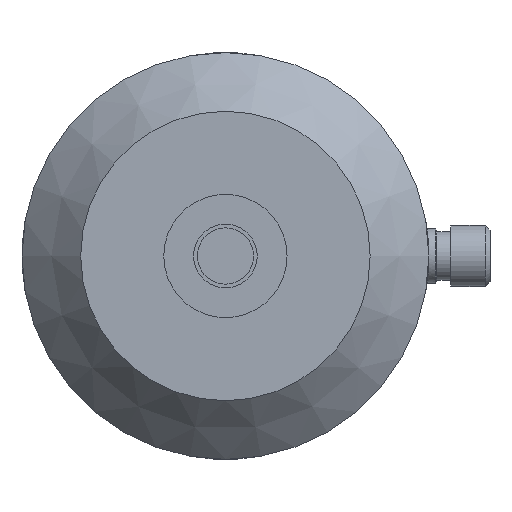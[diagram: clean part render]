
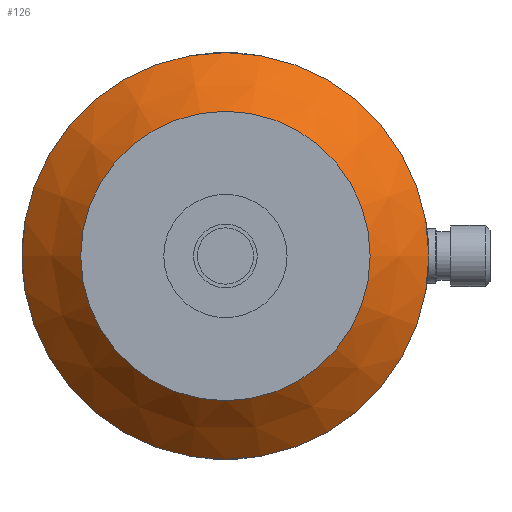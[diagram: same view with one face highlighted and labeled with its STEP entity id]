
A CAD part, front view. The second image highlights one B-rep face of the part: STEP entity #126.
In plain terms, the highlighted conical face has half-angle 45 degrees and reference radius 52.375 mm.
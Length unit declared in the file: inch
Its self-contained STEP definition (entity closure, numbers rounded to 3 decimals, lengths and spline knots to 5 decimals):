
#13 = CARTESIAN_POINT ( 'NONE',  ( 0., -3.49, 0. ) ) ;
#126 = ADVANCED_FACE ( 'NONE', ( #7541, #8226 ), #4360, .T. ) ;
#176 = CIRCLE ( 'NONE', #9224, 1.467 ) ;
#199 = AXIS2_PLACEMENT_3D ( 'NONE', #13, #4291, #2140 ) ;
#296 = VERTEX_POINT ( 'NONE', #924 ) ;
#924 = CARTESIAN_POINT ( 'NONE',  ( 2.062, -3.49, 0. ) ) ;
#2140 = DIRECTION ( 'NONE',  ( -1., 0., 0. ) ) ;
#3172 = DIRECTION ( 'NONE',  ( 0., -1., 0. ) ) ;
#4291 = DIRECTION ( 'NONE',  ( 0., 1., 0. ) ) ;
#4311 = DIRECTION ( 'NONE',  ( 0., -1., 0. ) ) ;
#4360 = CONICAL_SURFACE ( 'NONE', #199, 2.062, 0.785 ) ;
#4717 = CARTESIAN_POINT ( 'NONE',  ( 1.467, -4.085, 0. ) ) ;
#6438 = EDGE_CURVE ( 'NONE', #296, #296, #13646, .T. ) ;
#6826 = ORIENTED_EDGE ( 'NONE', *, *, #6438, .T. ) ;
#6832 = VERTEX_POINT ( 'NONE', #4717 ) ;
#7541 = FACE_BOUND ( 'NONE', #8173, .T. ) ;
#7725 = ORIENTED_EDGE ( 'NONE', *, *, #12360, .F. ) ;
#8173 = EDGE_LOOP ( 'NONE', ( #7725 ) ) ;
#8226 = FACE_OUTER_BOUND ( 'NONE', #13752, .T. ) ;
#9050 = AXIS2_PLACEMENT_3D ( 'NONE', #10752, #4311, #11850 ) ;
#9224 = AXIS2_PLACEMENT_3D ( 'NONE', #9608, #3172, #10696 ) ;
#9608 = CARTESIAN_POINT ( 'NONE',  ( 0., -4.085, 0. ) ) ;
#10696 = DIRECTION ( 'NONE',  ( 1., 0., 0. ) ) ;
#10752 = CARTESIAN_POINT ( 'NONE',  ( 0., -3.49, 0. ) ) ;
#11850 = DIRECTION ( 'NONE',  ( 1., 0., 0. ) ) ;
#12360 = EDGE_CURVE ( 'NONE', #6832, #6832, #176, .T. ) ;
#13646 = CIRCLE ( 'NONE', #9050, 2.062 ) ;
#13752 = EDGE_LOOP ( 'NONE', ( #6826 ) ) ;
